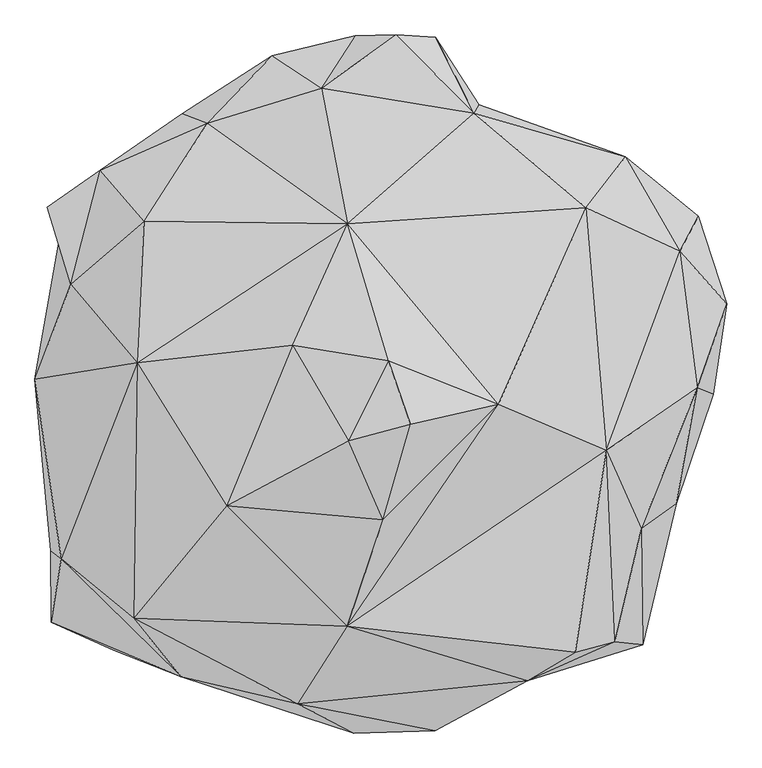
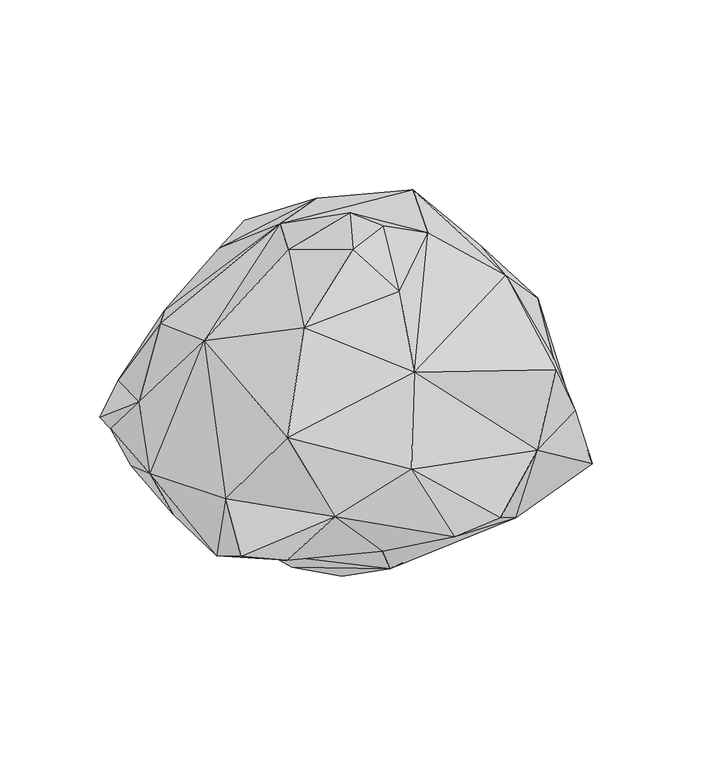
"""IFC4 building model written with IfcOpenShell, lengths in millimetres: geographic element geometry, Enscape AssetDefinition - Arbusto Yeg : Enscape AssetDefinition - Arbusto Yeg."""

from ifc_helpers import new_model, si_unit, origin, place, context, project, spatial, faceted_brep, source, transform, mapped, element, save


def geographic_element_fcbac310(model_context):
    return source(origin(), model_context, "Body", "Brep", [
        faceted_brep([(100.6871015, 101.0570824, 0.0), (164.7462845, -184.8837137, 38.3192375), (-113.1606773, -106.1839312, 0.0), (-59.5137402, -366.9661582, 171.4587659), (360.9936535, -431.4481616, 292.3361361), (323.0443597, -11.7864683, 94.7674364), (583.2980871, -207.2410136, 414.5877063), (-220.5073982, 184.2494607, 71.7758983), (-321.7758834, -95.8245173, 105.6025326), (-439.3234551, 488.9534712, 374.2600381), (27.6427045, 409.0380371, 177.9598147), (-546.9344854, 155.7082385, 325.0528574), (-533.1395268, -290.327698, 357.2938442), (-766.0148144, 324.8414397, 465.5919671), (-779.651165, -9.9894283, 452.8541267), (-247.3044395, -637.1564269, 481.3424945), (-658.5094929, -641.490519, 586.0993266), (-815.5919313, -395.1374292, 513.3720636), (-854.3339968, 29.8625771, 638.68922), (-780.0739408, 452.9069364, 559.6194267), (-788.9006138, -415.5390859, 772.4101543), (-600.951314, 70.7716718, 1125.2641678), (-765.2748227, 266.1733627, 789.1648412), (-814.3762946, -573.2557774, 618.60466), (-490.6976521, -707.8223825, 763.7949586), (-609.619379, -563.3720756, 1076.2684345), (-62.1564463, -847.5158215, 609.7251177), (-202.1670043, -774.6828794, 917.6003933), (-79.9682811, -582.0824504, 1197.1458197), (-378.5412014, -283.2452357, 1321.035862), (367.9175377, -717.3889875, 770.3487873), (138.4249479, -841.8604732, 620.8773851), (303.2769561, -668.9745784, 458.5095048), (654.9682617, -628.6997795, 554.7040105), (486.892134, -647.092998, 1048.1500626), (585.6764913, -620.4545498, 813.4249449), (738.2664084, -278.2241106, 670.4016328), (650.9513855, -340.6448066, 867.3889637), (564.1648769, -145.4545408, 1145.3487873), (789.9048328, 8.7737842, 868.1818247), (513.4777427, 455.7082355, 1183.8265657), (295.8773971, -32.1881585, 1362.5262976), (746.1944818, 347.5686908, 911.1522436), (829.8625946, -6.7653274, 675.3699183), (863.7420535, 217.8118229, 750.4756451), (792.1247482, 434.8836839, 669.5559621), (611.3636494, 582.6110244, 810.1479411), (235.8879447, 689.904809, 1099.7885466), (-78.1183913, 415.9619212, 1260.8879805), (248.0443865, 711.522162, 697.198689), (625.6341934, 504.2282939, 539.0062928), (769.3445683, 256.0253739, 570.5074072), (438.2663965, 251.2684762, 289.7991538), (299.7885644, 509.1965795, 396.5116143), (-129.651159, 740.0634289, 470.7716405), (-58.6680733, 848.4143615, 577.2727132), (-265.6448185, 832.2938085, 676.5856147), (-59.143763, 882.29388, 721.2473154), (-488.7420535, 688.5834336, 574.1014481), (-692.7061081, 549.1014719, 689.2706156), (-427.1669984, 665.5390859, 840.7504559), (-143.1289613, 752.6426911, 969.2388773), (-582.9809904, 421.9344556, 986.31078), (-823.361516, 456.6067457, 625.0), (24.0486246, 75.3699765, 1481.7652702), (-214.2706066, 114.9577126, 1373.0971813), (-75.7399499, -122.4630028, 1472.3572731), (78.4883648, -81.6067681, 1500.0), (10.0951362, -318.3403611, 1370.1373339), (42.547565, 884.3023181, 951.7441392), (140.1162744, 879.0697455, 902.8012753)], [[[0, 1, 2]], [[2, 1, 3]], [[1, 4, 3]], [[5, 6, 1]], [[1, 0, 5]], [[1, 6, 4]], [[7, 0, 2]], [[2, 3, 8]], [[2, 8, 7]], [[7, 9, 10]], [[7, 11, 9]], [[7, 8, 11]], [[10, 0, 7]], [[3, 12, 8]], [[12, 11, 8]], [[9, 11, 13]], [[11, 12, 14]], [[11, 14, 13]], [[12, 15, 16]], [[12, 16, 17]], [[3, 15, 12]], [[14, 12, 17]], [[14, 18, 13]], [[14, 17, 18]], [[13, 18, 19]], [[9, 13, 19]], [[17, 20, 18]], [[20, 21, 18]], [[18, 21, 22]], [[18, 22, 19]], [[17, 23, 20]], [[17, 16, 23]], [[23, 24, 20]], [[20, 25, 21]], [[24, 25, 20]], [[16, 24, 23]], [[15, 24, 16]], [[15, 26, 24]], [[26, 27, 24]], [[24, 27, 25]], [[25, 27, 28]], [[25, 29, 21]], [[25, 28, 29]], [[30, 28, 27]], [[26, 31, 27]], [[31, 30, 27]], [[32, 31, 26]], [[32, 26, 15]], [[3, 32, 15]], [[4, 33, 32]], [[4, 32, 3]], [[32, 33, 30]], [[32, 30, 31]], [[34, 28, 30]], [[30, 33, 35]], [[35, 34, 30]], [[4, 6, 33]], [[6, 36, 33]], [[33, 37, 35]], [[36, 37, 33]], [[37, 38, 35]], [[38, 34, 35]], [[34, 38, 28]], [[38, 37, 39]], [[40, 41, 38]], [[38, 41, 28]], [[39, 42, 38]], [[42, 40, 38]], [[36, 39, 37]], [[43, 39, 36]], [[6, 43, 36]], [[43, 44, 39]], [[44, 42, 39]], [[45, 42, 44]], [[46, 40, 42]], [[46, 42, 45]], [[46, 47, 40]], [[47, 48, 40]], [[40, 48, 41]], [[46, 49, 47]], [[50, 49, 46]], [[50, 46, 45]], [[51, 45, 44]], [[45, 51, 50]], [[51, 44, 43]], [[51, 43, 6]], [[52, 50, 51]], [[52, 51, 6]], [[53, 49, 50]], [[50, 52, 53]], [[5, 52, 6]], [[0, 52, 5]], [[0, 10, 52]], [[10, 53, 52]], [[54, 49, 53]], [[10, 54, 53]], [[10, 9, 54]], [[54, 55, 49]], [[54, 56, 57]], [[58, 56, 54]], [[54, 9, 58]], [[54, 57, 55]], [[9, 19, 58]], [[58, 59, 60]], [[19, 59, 58]], [[58, 60, 56]], [[56, 61, 57]], [[56, 60, 61]], [[60, 62, 48]], [[60, 48, 61]], [[59, 62, 60]], [[19, 63, 59]], [[22, 62, 59]], [[63, 22, 59]], [[19, 22, 63]], [[22, 21, 62]], [[62, 21, 48]], [[48, 64, 41]], [[48, 65, 64]], [[61, 48, 47]], [[48, 21, 65]], [[21, 29, 65]], [[65, 29, 66]], [[65, 66, 64]], [[66, 67, 64]], [[41, 64, 67]], [[68, 28, 41]], [[41, 67, 68]], [[66, 68, 67]], [[66, 29, 68]], [[28, 68, 29]], [[69, 61, 47]], [[57, 61, 69]], [[57, 69, 70]], [[69, 47, 70]], [[49, 70, 47]], [[57, 70, 49]], [[55, 57, 49]]]),
    ])


if __name__ == "__main__":
    model = new_model("IFC4")
    model_context = context("Model", 3, world=origin())
    ifc_project = project(units=[si_unit("LENGTHUNIT", "METRE", prefix="MILLI")], contexts=[model_context])
    site = spatial("IfcSite", under=ifc_project)
    building = spatial("IfcBuilding", under=site)
    placement = place(None, origin())
    geographic_element_shape = geographic_element_fcbac310(model_context)
    element("IfcGeographicElement", 1, ObjectType="Enscape AssetDefinition - Arbusto Yeg : Enscape AssetDefinition - Arbusto Yeg", at=placement, inside=building, context=model_context, shape_type="MappedRepresentation", body=[
        mapped(geographic_element_shape, transform((0.0, 0.0, 0.0), x_axis=(1.0, 0.0, 0.0), y_axis=(0.0, 1.0, 0.0), z_axis=(0.0, 0.0, 1.0))),
    ])
    save(model, "model.ifc")
